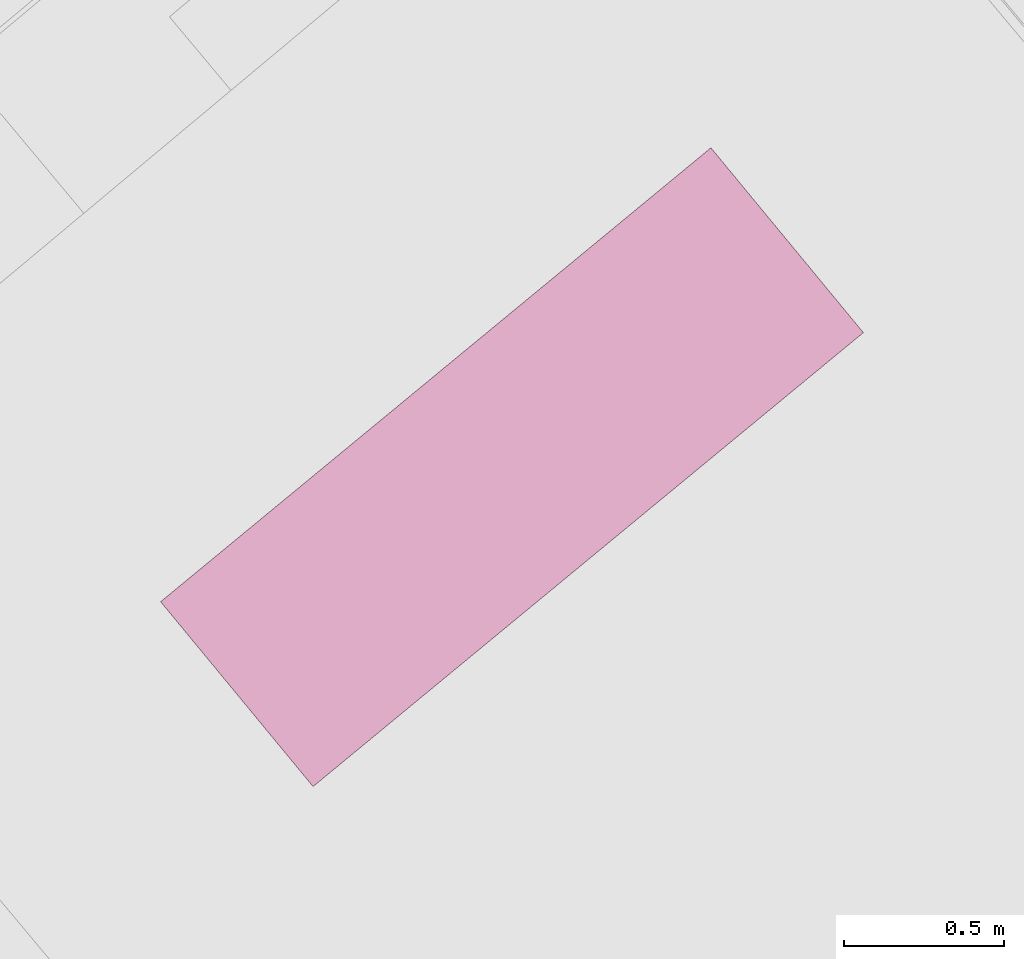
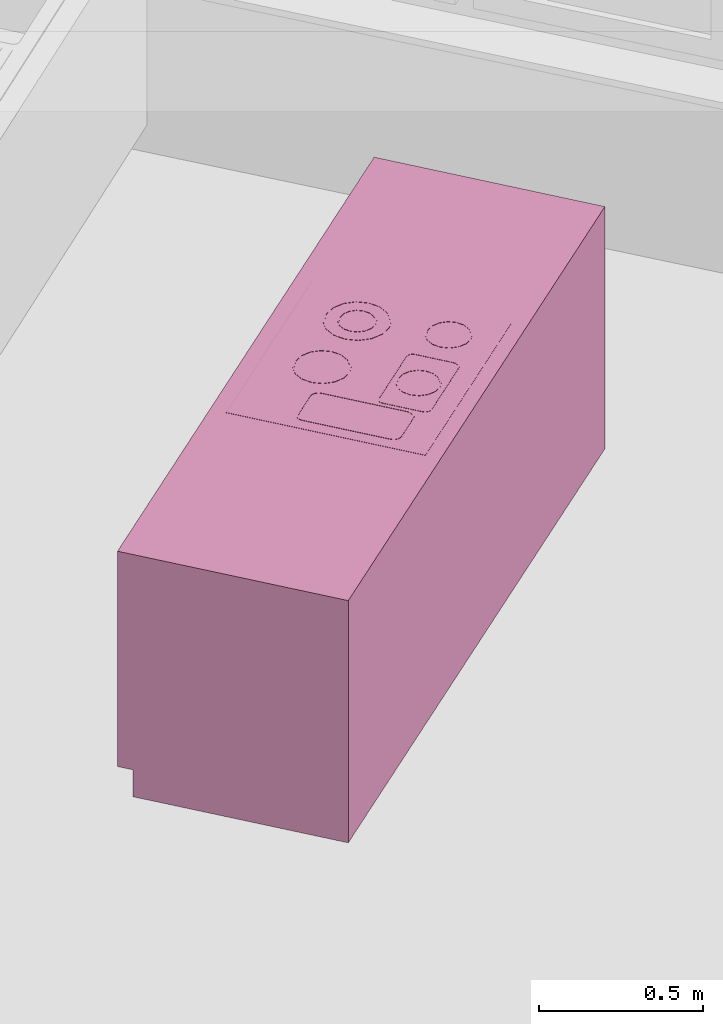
# One storey, part 65 of 67: 1 furniture element.
"""IFC4 building model written with IfcOpenShell, lengths in metres."""

from ifc_helpers import new_model, entity, si_unit, converted_unit, derived_unit, direction, frame, origin_with_axes, place, context, subcontext, project, spatial, polygons, source, transform, mapped, type_object, element, save


model = new_model("IFC4")

# Units and contexts
model_context = context("Model", 3, precision=1e-05, world=origin_with_axes(), true_north=direction((0.0, 1.0)))
body_context = subcontext(model_context, "Body", "Model", "MODEL_VIEW")
ifc_project = project(units=[si_unit("LENGTHUNIT", "METRE"), si_unit("AREAUNIT", "SQUARE_METRE"), si_unit("VOLUMEUNIT", "CUBIC_METRE"), converted_unit("PLANEANGLEUNIT", "DEGREE", entity("IfcPlaneAngleMeasure", 0.0174532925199), si_unit("PLANEANGLEUNIT", "RADIAN"), dimensions=[0, 0, 0, 0, 0, 0, 0]), converted_unit("TIMEUNIT", "Year", entity("IfcTimeMeasure", 31556926.0), si_unit("TIMEUNIT", "SECOND"), dimensions=[0, 0, 1, 0, 0, 0, 0]), si_unit("MASSUNIT", "GRAM", prefix="KILO"), si_unit("THERMODYNAMICTEMPERATUREUNIT", "DEGREE_CELSIUS"), si_unit("LUMINOUSINTENSITYUNIT", "LUMEN"), si_unit("ENERGYUNIT", "JOULE", prefix="MEGA"), derived_unit("THERMALCONDUCTANCEUNIT", [(si_unit("POWERUNIT", "WATT"), 1), (si_unit("LENGTHUNIT", "METRE"), -1), (si_unit("THERMODYNAMICTEMPERATUREUNIT", "KELVIN"), -1)]), derived_unit("SPECIFICHEATCAPACITYUNIT", [(si_unit("ENERGYUNIT", "JOULE"), 1), (si_unit("MASSUNIT", "GRAM", prefix="KILO"), -1), (si_unit("THERMODYNAMICTEMPERATUREUNIT", "KELVIN"), -1)]), derived_unit("MASSDENSITYUNIT", [(si_unit("MASSUNIT", "GRAM", prefix="KILO"), 1), (si_unit("VOLUMEUNIT", "CUBIC_METRE"), -1)])], contexts=[model_context])

# Site, building, storey
site_placement = place(None, frame((-0.00153261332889, -0.00661245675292, 0.0), z_axis=(0.0, 0.0, 1.0), x_axis=(1.0, 0.0, 0.0)))
site = spatial("IfcSite", under=ifc_project, at=site_placement, Name="Site", CompositionType="ELEMENT")
building_placement = place(site_placement, origin_with_axes())
building = spatial("IfcBuilding", under=site, at=building_placement, Name="Building", CompositionType="ELEMENT")
storey_placement = place(building_placement, frame((0.0, 0.0, -0.22), z_axis=(0.0, 0.0, 1.0), x_axis=(1.0, 0.0, 0.0)))
storey = spatial("IfcBuildingStorey", under=building, at=storey_placement, Name="EG", CompositionType="ELEMENT", Elevation=-0.22)

# Furniture
furniture_type = type_object("IfcFurnitureType", Name="Konzeptküche 26", AssemblyPlace="NOTDEFINED", PredefinedType="NOTDEFINED")
shared_shape = source(origin_with_axes(), body_context, "Body", "Tessellation", [
    polygons([(0.451386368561, 0.0111886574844, 0.0), (2.6840690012, -0.00300580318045, 0.0), (2.6840690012, -0.00300580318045, 0.1), (0.451386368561, 0.0111886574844, 0.1), (0.455836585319, 0.711174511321, 0.0), (2.68851921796, 0.696980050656, 0.0), (2.68851921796, 0.696980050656, 0.1), (0.455836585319, 0.711174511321, 0.1)], [[[1, 2, 3, 4]], [[1, 5, 6, 2]], [[2, 6, 7, 3]], [[4, 3, 7, 8]], [[5, 1, 4, 8]], [[6, 5, 8, 7]]], closed=True),
    polygons([(0.451386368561, 0.0111886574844, 0.85), (2.6840690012, -0.00300580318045, 0.85), (2.6840690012, -0.00300580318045, 0.9), (0.451386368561, 0.0111886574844, 0.9), (0.456154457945, 0.76117350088, 0.85), (2.68883709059, 0.746979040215, 0.85), (2.68883709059, 0.746979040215, 0.9), (0.456154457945, 0.76117350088, 0.9)], [[[1, 2, 3, 4]], [[1, 5, 6, 2]], [[2, 6, 7, 3]], [[4, 3, 7, 8]], [[5, 1, 4, 8]], [[6, 5, 8, 7]]], closed=True),
    polygons([(0.451386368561, 0.0111886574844, 0.1), (2.6840690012, -0.00300580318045, 0.1), (2.6840690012, -0.00300580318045, 0.85), (0.451386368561, 0.0111886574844, 0.85), (0.456154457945, 0.76117350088, 0.1), (2.68883709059, 0.746979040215, 0.1), (2.68883709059, 0.746979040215, 0.85), (0.456154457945, 0.76117350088, 0.85)], [[[1, 2, 3, 4]], [[1, 5, 6, 2]], [[2, 6, 7, 3]], [[4, 3, 7, 8]], [[5, 1, 4, 8]], [[6, 5, 8, 7]]], closed=True),
    polygons([(2.01007115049, 0.701293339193, 0.9), (2.00593880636, 0.0513064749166, 0.9), (1.25595396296, 0.0560745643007, 0.9), (1.26008630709, 0.706061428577, 0.9), (2.01007115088, 0.70129333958, 0.9008), (2.00593880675, 0.0513064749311, 0.9008), (1.25595396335, 0.0560745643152, 0.9008), (1.26008630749, 0.706061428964, 0.9008), (2.00322248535, 0.694531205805, 0.901999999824), (1.99917667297, 0.0581551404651, 0.901999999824), (1.26280262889, 0.0628366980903, 0.901999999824), (1.26684844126, 0.69921276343, 0.901999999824)], [[[1, 2, 3, 4]], [[2, 1, 5, 6]], [[3, 2, 6, 7]], [[4, 3, 7, 8]], [[1, 4, 8, 5]], [[6, 5, 9, 10]], [[7, 6, 10, 11]], [[8, 7, 11, 12]], [[5, 8, 12, 9]], [[11, 10, 9, 12]]], closed=True),
    polygons([(1.95268579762, 0.208298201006, 0.902), (1.94734355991, 0.236077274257, 0.902), (1.94734355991, 0.236077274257, 0.903), (1.95268579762, 0.208298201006, 0.903), (1.9469907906, 0.180589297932, 0.902), (1.93112555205, 0.157168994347, 0.902), (1.9075054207, 0.141602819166, 0.902), (1.87972634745, 0.136260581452, 0.902), (1.85201744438, 0.141955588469, 0.902), (1.82859714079, 0.157820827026, 0.902), (1.81303096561, 0.181440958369, 0.902), (1.8076887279, 0.20922003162, 0.902), (1.81338373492, 0.236928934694, 0.902), (1.82924897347, 0.260349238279, 0.902), (1.85286910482, 0.275915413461, 0.902), (1.88064817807, 0.281257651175, 0.902), (1.90835708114, 0.275562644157, 0.902), (1.93177738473, 0.259697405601, 0.902), (1.94768589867, 0.208329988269, 0.902), (1.94271209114, 0.234193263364, 0.902), (1.92821944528, 0.256184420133, 0.902), (1.90641433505, 0.270955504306, 0.902), (1.8806163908, 0.276257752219, 0.902), (1.85475311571, 0.271283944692, 0.902), (1.83276195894, 0.256791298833, 0.902), (1.81799087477, 0.234986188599, 0.902), (1.81268862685, 0.209188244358, 0.902), (1.81766243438, 0.183324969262, 0.902), (1.83215508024, 0.161333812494, 0.902), (1.85396019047, 0.146562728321, 0.902), (1.87975813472, 0.141260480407, 0.902), (1.90562140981, 0.146234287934, 0.902), (1.92761256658, 0.160726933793, 0.902), (1.94238365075, 0.182532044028, 0.902), (1.93177738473, 0.259697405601, 0.903), (1.90835708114, 0.275562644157, 0.903), (1.88064817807, 0.281257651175, 0.903), (1.85286910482, 0.275915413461, 0.903), (1.82924897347, 0.260349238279, 0.903), (1.81338373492, 0.236928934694, 0.903), (1.8076887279, 0.20922003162, 0.903), (1.81303096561, 0.181440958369, 0.903), (1.82859714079, 0.157820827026, 0.903), (1.85201744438, 0.141955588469, 0.903), (1.87972634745, 0.136260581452, 0.903), (1.9075054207, 0.141602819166, 0.903), (1.93112555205, 0.157168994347, 0.903), (1.9469907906, 0.180589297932, 0.903), (1.94768589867, 0.208329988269, 0.903), (1.94238365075, 0.182532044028, 0.903), (1.92761256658, 0.160726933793, 0.903), (1.90562140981, 0.146234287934, 0.903), (1.87975813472, 0.141260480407, 0.903), (1.85396019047, 0.146562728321, 0.903), (1.83215508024, 0.161333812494, 0.903), (1.81766243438, 0.183324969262, 0.903), (1.81268862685, 0.209188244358, 0.903), (1.81799087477, 0.234986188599, 0.903), (1.83276195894, 0.256791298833, 0.903), (1.85475311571, 0.271283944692, 0.903), (1.8806163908, 0.276257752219, 0.903), (1.90641433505, 0.270955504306, 0.903), (1.92821944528, 0.256184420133, 0.903), (1.94271209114, 0.234193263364, 0.903)], [[[1, 2, 3, 4]], [[1, 5, 6, 7, 8, 9, 10, 11, 12, 13, 14, 15, 16, 17, 18, 2], [19, 20, 21, 22, 23, 24, 25, 26, 27, 28, 29, 30, 31, 32, 33, 34]], [[2, 18, 35, 3]], [[4, 3, 35, 36, 37, 38, 39, 40, 41, 42, 43, 44, 45, 46, 47, 48], [49, 50, 51, 52, 53, 54, 55, 56, 57, 58, 59, 60, 61, 62, 63, 64]], [[5, 1, 4, 48]], [[6, 5, 48, 47]], [[7, 6, 47, 46]], [[8, 7, 46, 45]], [[9, 8, 45, 44]], [[10, 9, 44, 43]], [[11, 10, 43, 42]], [[12, 11, 42, 41]], [[13, 12, 41, 40]], [[14, 13, 40, 39]], [[15, 14, 39, 38]], [[16, 15, 38, 37]], [[17, 16, 37, 36]], [[18, 17, 36, 35]], [[20, 19, 49, 64]], [[21, 20, 64, 63]], [[22, 21, 63, 62]], [[23, 22, 62, 61]], [[24, 23, 61, 60]], [[25, 24, 60, 59]], [[26, 25, 59, 58]], [[27, 26, 58, 57]], [[28, 27, 57, 56]], [[29, 28, 56, 55]], [[30, 29, 55, 54]], [[31, 30, 54, 53]], [[32, 31, 53, 52]], [[33, 32, 52, 51]], [[34, 33, 51, 50]], [[19, 34, 50, 49]]], closed=True),
    polygons([(1.9127590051, 0.495207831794, 0.902), (1.90833784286, 0.518197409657, 0.902), (1.90833784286, 0.518197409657, 0.903), (1.9127590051, 0.495207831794, 0.903), (1.90804589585, 0.472276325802, 0.902), (1.89491604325, 0.452894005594, 0.902), (1.87536834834, 0.44001165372, 0.902), (1.85237877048, 0.435590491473, 0.902), (1.82944726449, 0.440303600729, 0.902), (1.81006494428, 0.453433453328, 0.902), (1.7971825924, 0.472981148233, 0.902), (1.79276143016, 0.495970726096, 0.902), (1.79747453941, 0.518902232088, 0.902), (1.81060439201, 0.538284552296, 0.902), (1.83015208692, 0.551166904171, 0.902), (1.85314166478, 0.555588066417, 0.902), (1.87607317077, 0.550874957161, 0.902), (1.89545549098, 0.537745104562, 0.902), (1.90775910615, 0.495239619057, 0.902), (1.90370637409, 0.516313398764, 0.902), (1.89189755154, 0.534232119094, 0.902), (1.87413042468, 0.546267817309, 0.902), (1.85310987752, 0.550588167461, 0.902), (1.83203609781, 0.546535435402, 0.902), (1.81411737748, 0.53472661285, 0.902), (1.80208167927, 0.516959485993, 0.902), (1.79776132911, 0.495938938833, 0.902), (1.80181406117, 0.474865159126, 0.902), (1.81362288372, 0.456946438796, 0.902), (1.83139001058, 0.444910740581, 0.902), (1.85241055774, 0.440590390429, 0.902), (1.87348433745, 0.444643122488, 0.902), (1.89140305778, 0.45645194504, 0.902), (1.90343875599, 0.474219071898, 0.902), (1.89545549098, 0.537745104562, 0.903), (1.87607317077, 0.550874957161, 0.903), (1.85314166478, 0.555588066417, 0.903), (1.83015208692, 0.551166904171, 0.903), (1.81060439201, 0.538284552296, 0.903), (1.79747453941, 0.518902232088, 0.903), (1.79276143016, 0.495970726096, 0.903), (1.7971825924, 0.472981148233, 0.903), (1.81006494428, 0.453433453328, 0.903), (1.82944726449, 0.440303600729, 0.903), (1.85237877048, 0.435590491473, 0.903), (1.87536834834, 0.44001165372, 0.903), (1.89491604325, 0.452894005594, 0.903), (1.90804589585, 0.472276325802, 0.903), (1.90775910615, 0.495239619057, 0.903), (1.90343875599, 0.474219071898, 0.903), (1.89140305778, 0.45645194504, 0.903), (1.87348433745, 0.444643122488, 0.903), (1.85241055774, 0.440590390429, 0.903), (1.83139001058, 0.444910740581, 0.903), (1.81362288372, 0.456946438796, 0.903), (1.80181406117, 0.474865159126, 0.903), (1.79776132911, 0.495938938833, 0.903), (1.80208167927, 0.516959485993, 0.903), (1.81411737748, 0.53472661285, 0.903), (1.83203609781, 0.546535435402, 0.903), (1.85310987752, 0.550588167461, 0.903), (1.87413042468, 0.546267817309, 0.903), (1.89189755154, 0.534232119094, 0.903), (1.90370637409, 0.516313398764, 0.903)], [[[1, 2, 3, 4]], [[1, 5, 6, 7, 8, 9, 10, 11, 12, 13, 14, 15, 16, 17, 18, 2], [19, 20, 21, 22, 23, 24, 25, 26, 27, 28, 29, 30, 31, 32, 33, 34]], [[2, 18, 35, 3]], [[4, 3, 35, 36, 37, 38, 39, 40, 41, 42, 43, 44, 45, 46, 47, 48], [49, 50, 51, 52, 53, 54, 55, 56, 57, 58, 59, 60, 61, 62, 63, 64]], [[5, 1, 4, 48]], [[6, 5, 48, 47]], [[7, 6, 47, 46]], [[8, 7, 46, 45]], [[9, 8, 45, 44]], [[10, 9, 44, 43]], [[11, 10, 43, 42]], [[12, 11, 42, 41]], [[13, 12, 41, 40]], [[14, 13, 40, 39]], [[15, 14, 39, 38]], [[16, 15, 38, 37]], [[17, 16, 37, 36]], [[18, 17, 36, 35]], [[20, 19, 49, 64]], [[21, 20, 64, 63]], [[22, 21, 63, 62]], [[23, 22, 62, 61]], [[24, 23, 61, 60]], [[25, 24, 60, 59]], [[26, 25, 59, 58]], [[27, 26, 58, 57]], [[28, 27, 57, 56]], [[29, 28, 56, 55]], [[30, 29, 55, 54]], [[31, 30, 54, 53]], [[32, 31, 53, 52]], [[33, 32, 52, 51]], [[34, 33, 51, 50]], [[19, 34, 50, 49]]], closed=True),
    polygons([(1.95775809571, 0.494921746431, 0.902), (1.95002106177, 0.535153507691, 0.902), (1.95002106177, 0.535153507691, 0.903), (1.95775809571, 0.494921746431, 0.903), (1.94951015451, 0.454791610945, 0.902), (1.92653291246, 0.420872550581, 0.902), (1.89232444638, 0.3983284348, 0.902), (1.85209268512, 0.39059140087, 0.902), (1.81196254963, 0.398839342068, 0.902), (1.77804348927, 0.421816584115, 0.902), (1.75549937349, 0.456025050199, 0.902), (1.74776233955, 0.496256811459, 0.902), (1.75601028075, 0.536386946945, 0.902), (1.7789875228, 0.57030600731, 0.902), (1.81319598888, 0.59285012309, 0.902), (1.85342775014, 0.60058715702, 0.902), (1.89355788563, 0.592339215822, 0.902), (1.92747694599, 0.569361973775, 0.902), (1.95275819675, 0.494953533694, 0.902), (1.94538959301, 0.533269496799, 0.902), (1.92391900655, 0.565848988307, 0.902), (1.89161513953, 0.587732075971, 0.902), (1.85339596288, 0.595587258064, 0.902), (1.81507999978, 0.588218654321, 0.902), (1.78250050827, 0.566748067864, 0.902), (1.7606174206, 0.53444420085, 0.902), (1.75276223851, 0.496225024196, 0.902), (1.76013084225, 0.457909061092, 0.902), (1.78160142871, 0.425329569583, 0.902), (1.81390529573, 0.403446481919, 0.902), (1.85212447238, 0.395591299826, 0.902), (1.89044043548, 0.402959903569, 0.902), (1.92301992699, 0.424430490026, 0.902), (1.94490301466, 0.456734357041, 0.902), (1.92747694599, 0.569361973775, 0.903), (1.89355788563, 0.592339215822, 0.903), (1.85342775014, 0.60058715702, 0.903), (1.81319598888, 0.59285012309, 0.903), (1.7789875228, 0.57030600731, 0.903), (1.75601028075, 0.536386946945, 0.903), (1.74776233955, 0.496256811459, 0.903), (1.75549937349, 0.456025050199, 0.903), (1.77804348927, 0.421816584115, 0.903), (1.81196254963, 0.398839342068, 0.903), (1.85209268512, 0.39059140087, 0.903), (1.89232444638, 0.3983284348, 0.903), (1.92653291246, 0.420872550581, 0.903), (1.94951015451, 0.454791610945, 0.903), (1.95275819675, 0.494953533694, 0.903), (1.94490301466, 0.456734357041, 0.903), (1.92301992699, 0.424430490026, 0.903), (1.89044043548, 0.402959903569, 0.903), (1.85212447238, 0.395591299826, 0.903), (1.81390529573, 0.403446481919, 0.903), (1.78160142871, 0.425329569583, 0.903), (1.76013084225, 0.457909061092, 0.903), (1.75276223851, 0.496225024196, 0.903), (1.7606174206, 0.53444420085, 0.903), (1.78250050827, 0.566748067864, 0.903), (1.81507999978, 0.588218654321, 0.903), (1.85339596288, 0.595587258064, 0.903), (1.89161513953, 0.587732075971, 0.903), (1.92391900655, 0.565848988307, 0.903), (1.94538959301, 0.533269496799, 0.903)], [[[1, 2, 3, 4]], [[1, 5, 6, 7, 8, 9, 10, 11, 12, 13, 14, 15, 16, 17, 18, 2], [19, 20, 21, 22, 23, 24, 25, 26, 27, 28, 29, 30, 31, 32, 33, 34]], [[2, 18, 35, 3]], [[4, 3, 35, 36, 37, 38, 39, 40, 41, 42, 43, 44, 45, 46, 47, 48], [49, 50, 51, 52, 53, 54, 55, 56, 57, 58, 59, 60, 61, 62, 63, 64]], [[5, 1, 4, 48]], [[6, 5, 48, 47]], [[7, 6, 47, 46]], [[8, 7, 46, 45]], [[9, 8, 45, 44]], [[10, 9, 44, 43]], [[11, 10, 43, 42]], [[12, 11, 42, 41]], [[13, 12, 41, 40]], [[14, 13, 40, 39]], [[15, 14, 39, 38]], [[16, 15, 38, 37]], [[17, 16, 37, 36]], [[18, 17, 36, 35]], [[20, 19, 49, 64]], [[21, 20, 64, 63]], [[22, 21, 63, 62]], [[23, 22, 62, 61]], [[24, 23, 61, 60]], [[25, 24, 60, 59]], [[26, 25, 59, 58]], [[27, 26, 58, 57]], [[28, 27, 57, 56]], [[29, 28, 56, 55]], [[30, 29, 55, 54]], [[31, 30, 54, 53]], [[32, 31, 53, 52]], [[33, 32, 52, 51]], [[34, 33, 51, 50]], [[19, 34, 50, 49]]], closed=True),
    polygons([(1.67867067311, 0.206790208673, 0.902), (1.67351265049, 0.233611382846, 0.902), (1.67351265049, 0.233611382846, 0.903), (1.67867067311, 0.206790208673, 0.903), (1.67317204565, 0.180036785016, 0.902), (1.65785388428, 0.157424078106, 0.902), (1.63504824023, 0.142394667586, 0.902), (1.60822706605, 0.137236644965, 0.902), (1.5814736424, 0.142735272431, 0.902), (1.55886093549, 0.158053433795, 0.902), (1.54383152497, 0.180859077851, 0.902), (1.53867350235, 0.207680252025, 0.902), (1.54417212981, 0.234433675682, 0.902), (1.55949029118, 0.257046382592, 0.902), (1.58229593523, 0.272075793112, 0.902), (1.60911710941, 0.277233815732, 0.902), (1.63587053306, 0.271735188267, 0.902), (1.65848323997, 0.256417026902, 0.902), (1.67367077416, 0.206821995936, 0.902), (1.66888118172, 0.231727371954, 0.902), (1.65492530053, 0.252904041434, 0.902), (1.63392778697, 0.267128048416, 0.902), (1.60908532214, 0.272233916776, 0.902), (1.58417994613, 0.267444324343, 0.902), (1.56300327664, 0.253488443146, 0.902), (1.54877926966, 0.232490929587, 0.902), (1.5436734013, 0.207648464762, 0.902), (1.54846299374, 0.182743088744, 0.902), (1.56241887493, 0.161566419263, 0.902), (1.58341638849, 0.147342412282, 0.902), (1.60825885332, 0.142236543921, 0.902), (1.63316422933, 0.147026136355, 0.902), (1.65434089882, 0.160982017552, 0.902), (1.6685649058, 0.181979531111, 0.902), (1.65848323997, 0.256417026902, 0.903), (1.63587053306, 0.271735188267, 0.903), (1.60911710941, 0.277233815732, 0.903), (1.58229593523, 0.272075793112, 0.903), (1.55949029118, 0.257046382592, 0.903), (1.54417212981, 0.234433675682, 0.903), (1.53867350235, 0.207680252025, 0.903), (1.54383152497, 0.180859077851, 0.903), (1.55886093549, 0.158053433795, 0.903), (1.5814736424, 0.142735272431, 0.903), (1.60822706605, 0.137236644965, 0.903), (1.63504824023, 0.142394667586, 0.903), (1.65785388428, 0.157424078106, 0.903), (1.67317204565, 0.180036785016, 0.903), (1.67367077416, 0.206821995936, 0.903), (1.6685649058, 0.181979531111, 0.903), (1.65434089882, 0.160982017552, 0.903), (1.63316422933, 0.147026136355, 0.903), (1.60825885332, 0.142236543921, 0.903), (1.58341638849, 0.147342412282, 0.903), (1.56241887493, 0.161566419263, 0.903), (1.54846299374, 0.182743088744, 0.903), (1.5436734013, 0.207648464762, 0.903), (1.54877926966, 0.232490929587, 0.903), (1.56300327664, 0.253488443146, 0.903), (1.58417994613, 0.267444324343, 0.903), (1.60908532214, 0.272233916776, 0.903), (1.63392778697, 0.267128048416, 0.903), (1.65492530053, 0.252904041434, 0.903), (1.66888118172, 0.231727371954, 0.903)], [[[1, 2, 3, 4]], [[1, 5, 6, 7, 8, 9, 10, 11, 12, 13, 14, 15, 16, 17, 18, 2], [19, 20, 21, 22, 23, 24, 25, 26, 27, 28, 29, 30, 31, 32, 33, 34]], [[2, 18, 35, 3]], [[4, 3, 35, 36, 37, 38, 39, 40, 41, 42, 43, 44, 45, 46, 47, 48], [49, 50, 51, 52, 53, 54, 55, 56, 57, 58, 59, 60, 61, 62, 63, 64]], [[5, 1, 4, 48]], [[6, 5, 48, 47]], [[7, 6, 47, 46]], [[8, 7, 46, 45]], [[9, 8, 45, 44]], [[10, 9, 44, 43]], [[11, 10, 43, 42]], [[12, 11, 42, 41]], [[13, 12, 41, 40]], [[14, 13, 40, 39]], [[15, 14, 39, 38]], [[16, 15, 38, 37]], [[17, 16, 37, 36]], [[18, 17, 36, 35]], [[20, 19, 49, 64]], [[21, 20, 64, 63]], [[22, 21, 63, 62]], [[23, 22, 62, 61]], [[24, 23, 61, 60]], [[25, 24, 60, 59]], [[26, 25, 59, 58]], [[27, 26, 58, 57]], [[28, 27, 57, 56]], [[29, 28, 56, 55]], [[30, 29, 55, 54]], [[31, 30, 54, 53]], [[32, 31, 53, 52]], [[33, 32, 52, 51]], [[34, 33, 51, 50]], [[19, 34, 50, 49]]], closed=True),
    polygons([(1.67698381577, 0.511657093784, 0.902), (1.6703520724, 0.546141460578, 0.902), (1.6703520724, 0.546141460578, 0.903), (1.67698381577, 0.511657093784, 0.903), (1.66991415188, 0.477259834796, 0.902), (1.65021937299, 0.448186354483, 0.902), (1.62089783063, 0.428862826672, 0.902), (1.58641346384, 0.422231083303, 0.902), (1.55201620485, 0.429300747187, 0.902), (1.52294272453, 0.448995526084, 0.902), (1.50361919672, 0.478317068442, 0.902), (1.49698745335, 0.512801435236, 0.902), (1.50405711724, 0.547198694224, 0.902), (1.52375189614, 0.576272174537, 0.902), (1.55307343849, 0.595595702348, 0.902), (1.58755780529, 0.602227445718, 0.902), (1.62195506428, 0.595157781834, 0.902), (1.65102854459, 0.575463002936, 0.902), (1.67198391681, 0.511688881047, 0.902), (1.66572060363, 0.544257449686, 0.902), (1.64747060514, 0.571950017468, 0.902), (1.62001231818, 0.590550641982, 0.902), (1.58752601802, 0.597227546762, 0.902), (1.55495744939, 0.590964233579, 0.902), (1.5272648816, 0.572714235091, 0.902), (1.50866425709, 0.545255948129, 0.902), (1.50198735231, 0.512769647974, 0.902), (1.50825066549, 0.480201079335, 0.902), (1.52650066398, 0.452508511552, 0.902), (1.55395895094, 0.433907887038, 0.902), (1.5864452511, 0.427230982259, 0.902), (1.61901381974, 0.433494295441, 0.902), (1.64670638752, 0.451744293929, 0.902), (1.66530701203, 0.479202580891, 0.902), (1.65102854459, 0.575463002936, 0.903), (1.62195506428, 0.595157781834, 0.903), (1.58755780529, 0.602227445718, 0.903), (1.55307343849, 0.595595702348, 0.903), (1.52375189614, 0.576272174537, 0.903), (1.50405711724, 0.547198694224, 0.903), (1.49698745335, 0.512801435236, 0.903), (1.50361919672, 0.478317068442, 0.903), (1.52294272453, 0.448995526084, 0.903), (1.55201620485, 0.429300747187, 0.903), (1.58641346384, 0.422231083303, 0.903), (1.62089783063, 0.428862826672, 0.903), (1.65021937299, 0.448186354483, 0.903), (1.66991415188, 0.477259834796, 0.903), (1.67198391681, 0.511688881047, 0.903), (1.66530701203, 0.479202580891, 0.903), (1.64670638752, 0.451744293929, 0.903), (1.61901381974, 0.433494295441, 0.903), (1.5864452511, 0.427230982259, 0.903), (1.55395895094, 0.433907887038, 0.903), (1.52650066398, 0.452508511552, 0.903), (1.50825066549, 0.480201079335, 0.903), (1.50198735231, 0.512769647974, 0.903), (1.50866425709, 0.545255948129, 0.903), (1.5272648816, 0.572714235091, 0.903), (1.55495744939, 0.590964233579, 0.903), (1.58752601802, 0.597227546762, 0.903), (1.62001231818, 0.590550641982, 0.903), (1.64747060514, 0.571950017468, 0.903), (1.66572060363, 0.544257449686, 0.903)], [[[1, 2, 3, 4]], [[1, 5, 6, 7, 8, 9, 10, 11, 12, 13, 14, 15, 16, 17, 18, 2], [19, 20, 21, 22, 23, 24, 25, 26, 27, 28, 29, 30, 31, 32, 33, 34]], [[2, 18, 35, 3]], [[4, 3, 35, 36, 37, 38, 39, 40, 41, 42, 43, 44, 45, 46, 47, 48], [49, 50, 51, 52, 53, 54, 55, 56, 57, 58, 59, 60, 61, 62, 63, 64]], [[5, 1, 4, 48]], [[6, 5, 48, 47]], [[7, 6, 47, 46]], [[8, 7, 46, 45]], [[9, 8, 45, 44]], [[10, 9, 44, 43]], [[11, 10, 43, 42]], [[12, 11, 42, 41]], [[13, 12, 41, 40]], [[14, 13, 40, 39]], [[15, 14, 39, 38]], [[16, 15, 38, 37]], [[17, 16, 37, 36]], [[18, 17, 36, 35]], [[20, 19, 49, 64]], [[21, 20, 64, 63]], [[22, 21, 63, 62]], [[23, 22, 62, 61]], [[24, 23, 61, 60]], [[25, 24, 60, 59]], [[26, 25, 59, 58]], [[27, 26, 58, 57]], [[28, 27, 57, 56]], [[29, 28, 56, 55]], [[30, 29, 55, 54]], [[31, 30, 54, 53]], [[32, 31, 53, 52]], [[33, 32, 52, 51]], [[34, 33, 51, 50]], [[19, 34, 50, 49]]], closed=True),
    polygons([(1.72815115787, 0.294201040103, 0.902), (1.49030841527, 0.295713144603, 0.902), (1.49030841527, 0.295713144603, 0.903), (1.72815115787, 0.294201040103, 0.903), (1.73655937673, 0.292472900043, 0.902), (1.74366622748, 0.287658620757, 0.902), (1.7483897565, 0.280491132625, 0.902), (1.75001084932, 0.272061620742, 0.902), (1.74917517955, 0.140617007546, 0.902), (1.74744703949, 0.132208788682, 0.902), (1.7426327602, 0.125101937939, 0.902), (1.73546527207, 0.120378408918, 0.902), (1.72703576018, 0.118757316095, 0.902), (1.48919301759, 0.120269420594, 0.902), (1.48078479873, 0.121997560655, 0.902), (1.47367794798, 0.126811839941, 0.902), (1.46895441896, 0.133979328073, 0.902), (1.46733332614, 0.142408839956, 0.902), (1.46816899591, 0.273853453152, 0.902), (1.46989713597, 0.282261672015, 0.902), (1.47471141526, 0.289368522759, 0.902), (1.48187890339, 0.294092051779, 0.902), (1.72406760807, 0.123776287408, 0.902), (1.73173080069, 0.125250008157, 0.902), (1.738246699, 0.129544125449, 0.902), (1.74262331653, 0.136004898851, 0.902), (1.74419435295, 0.143648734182, 0.902), (1.74499187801, 0.269093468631, 0.902), (1.74351815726, 0.276756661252, 0.902), (1.73922403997, 0.283272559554, 0.902), (1.73276326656, 0.287649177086, 0.902), (1.72511943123, 0.289220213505, 0.902), (1.49327656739, 0.290694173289, 0.902), (1.48561337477, 0.28922045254, 0.902), (1.47909747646, 0.284926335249, 0.902), (1.47472085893, 0.278465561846, 0.902), (1.47314982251, 0.270821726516, 0.902), (1.47235229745, 0.145376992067, 0.902), (1.4738260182, 0.137713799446, 0.902), (1.47812013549, 0.131197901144, 0.902), (1.4845809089, 0.126821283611, 0.902), (1.49222474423, 0.125250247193, 0.902), (1.48187890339, 0.294092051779, 0.903), (1.47471141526, 0.289368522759, 0.903), (1.46989713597, 0.282261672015, 0.903), (1.46816899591, 0.273853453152, 0.903), (1.46733332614, 0.142408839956, 0.903), (1.46895441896, 0.133979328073, 0.903), (1.47367794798, 0.126811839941, 0.903), (1.48078479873, 0.121997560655, 0.903), (1.48919301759, 0.120269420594, 0.903), (1.72703576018, 0.118757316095, 0.903), (1.73546527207, 0.120378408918, 0.903), (1.7426327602, 0.125101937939, 0.903), (1.74744703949, 0.132208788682, 0.903), (1.74917517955, 0.140617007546, 0.903), (1.75001084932, 0.272061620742, 0.903), (1.7483897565, 0.280491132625, 0.903), (1.74366622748, 0.287658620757, 0.903), (1.73655937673, 0.292472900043, 0.903), (1.72406760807, 0.123776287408, 0.903), (1.49222474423, 0.125250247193, 0.903), (1.4845809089, 0.126821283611, 0.903), (1.47812013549, 0.131197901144, 0.903), (1.4738260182, 0.137713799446, 0.903), (1.47235229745, 0.145376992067, 0.903), (1.47314982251, 0.270821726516, 0.903), (1.47472085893, 0.278465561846, 0.903), (1.47909747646, 0.284926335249, 0.903), (1.48561337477, 0.28922045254, 0.903), (1.49327656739, 0.290694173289, 0.903), (1.72511943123, 0.289220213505, 0.903), (1.73276326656, 0.287649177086, 0.903), (1.73922403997, 0.283272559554, 0.903), (1.74351815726, 0.276756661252, 0.903), (1.74499187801, 0.269093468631, 0.903), (1.74419435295, 0.143648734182, 0.903), (1.74262331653, 0.136004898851, 0.903), (1.738246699, 0.129544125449, 0.903), (1.73173080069, 0.125250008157, 0.903)], [[[1, 2, 3, 4]], [[1, 5, 6, 7, 8, 9, 10, 11, 12, 13, 14, 15, 16, 17, 18, 19, 20, 21, 22, 2], [23, 24, 25, 26, 27, 28, 29, 30, 31, 32, 33, 34, 35, 36, 37, 38, 39, 40, 41, 42]], [[2, 22, 43, 3]], [[4, 3, 43, 44, 45, 46, 47, 48, 49, 50, 51, 52, 53, 54, 55, 56, 57, 58, 59, 60], [61, 62, 63, 64, 65, 66, 67, 68, 69, 70, 71, 72, 73, 74, 75, 76, 77, 78, 79, 80]], [[5, 1, 4, 60]], [[6, 5, 60, 59]], [[7, 6, 59, 58]], [[8, 7, 58, 57]], [[9, 8, 57, 56]], [[10, 9, 56, 55]], [[11, 10, 55, 54]], [[12, 11, 54, 53]], [[13, 12, 53, 52]], [[14, 13, 52, 51]], [[15, 14, 51, 50]], [[16, 15, 50, 49]], [[17, 16, 49, 48]], [[18, 17, 48, 47]], [[19, 18, 47, 46]], [[20, 19, 46, 45]], [[21, 20, 45, 44]], [[22, 21, 44, 43]], [[24, 23, 61, 80]], [[25, 24, 80, 79]], [[26, 25, 79, 78]], [[27, 26, 78, 77]], [[28, 27, 77, 76]], [[29, 28, 76, 75]], [[30, 29, 75, 74]], [[31, 30, 74, 73]], [[32, 31, 73, 72]], [[33, 32, 72, 71]], [[34, 33, 71, 70]], [[35, 34, 70, 69]], [[36, 35, 69, 68]], [[37, 36, 68, 67]], [[38, 37, 67, 66]], [[39, 38, 66, 65]], [[40, 39, 65, 64]], [[41, 40, 64, 63]], [[42, 41, 63, 62]], [[23, 42, 62, 61]]], closed=True),
    polygons([(1.45676176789, 0.182500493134, 0.902), (1.45859271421, 0.470494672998, 0.902), (1.45859271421, 0.470494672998, 0.903), (1.45676176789, 0.182500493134, 0.903), (1.45471942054, 0.172563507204, 0.902), (1.44902981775, 0.16416450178, 0.902), (1.44055914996, 0.158582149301, 0.902), (1.43059699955, 0.156666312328, 0.902), (1.3225991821, 0.157352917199, 0.902), (1.31266219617, 0.159395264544, 0.902), (1.30426319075, 0.165084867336, 0.902), (1.29868083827, 0.173555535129, 0.902), (1.2967650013, 0.183517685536, 0.902), (1.29859594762, 0.4715118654, 0.902), (1.30063829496, 0.48144885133, 0.902), (1.30632789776, 0.489847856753, 0.902), (1.31479856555, 0.495430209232, 0.902), (1.32476071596, 0.497346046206, 0.902), (1.4327585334, 0.496659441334, 0.902), (1.44269551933, 0.49461709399, 0.902), (1.45109452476, 0.488927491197, 0.902), (1.45667687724, 0.480456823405, 0.902), (1.42562888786, 0.161697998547, 0.902), (1.43559103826, 0.16361383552, 0.902), (1.44406170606, 0.169196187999, 0.902), (1.44975130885, 0.177595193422, 0.902), (1.45179365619, 0.187532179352, 0.902), (1.45356102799, 0.465526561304, 0.902), (1.45164519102, 0.475488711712, 0.902), (1.44606283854, 0.483959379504, 0.902), (1.43766383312, 0.489648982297, 0.902), (1.42772684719, 0.491691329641, 0.902), (1.32972882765, 0.492314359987, 0.902), (1.31976667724, 0.490398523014, 0.902), (1.31129600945, 0.484816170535, 0.902), (1.30560640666, 0.476417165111, 0.902), (1.30356405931, 0.466480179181, 0.902), (1.30179668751, 0.188485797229, 0.902), (1.30371252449, 0.178523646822, 0.902), (1.30929487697, 0.17005297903, 0.902), (1.31769388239, 0.164363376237, 0.902), (1.32763086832, 0.162321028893, 0.902), (1.45667687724, 0.480456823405, 0.903), (1.45109452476, 0.488927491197, 0.903), (1.44269551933, 0.49461709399, 0.903), (1.4327585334, 0.496659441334, 0.903), (1.32476071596, 0.497346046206, 0.903), (1.31479856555, 0.495430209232, 0.903), (1.30632789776, 0.489847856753, 0.903), (1.30063829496, 0.48144885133, 0.903), (1.29859594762, 0.4715118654, 0.903), (1.2967650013, 0.183517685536, 0.903), (1.29868083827, 0.173555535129, 0.903), (1.30426319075, 0.165084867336, 0.903), (1.31266219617, 0.159395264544, 0.903), (1.3225991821, 0.157352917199, 0.903), (1.43059699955, 0.156666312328, 0.903), (1.44055914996, 0.158582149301, 0.903), (1.44902981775, 0.16416450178, 0.903), (1.45471942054, 0.172563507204, 0.903), (1.42562888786, 0.161697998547, 0.903), (1.32763086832, 0.162321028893, 0.903), (1.31769388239, 0.164363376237, 0.903), (1.30929487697, 0.17005297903, 0.903), (1.30371252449, 0.178523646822, 0.903), (1.30179668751, 0.188485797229, 0.903), (1.30356405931, 0.466480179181, 0.903), (1.30560640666, 0.476417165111, 0.903), (1.31129600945, 0.484816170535, 0.903), (1.31976667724, 0.490398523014, 0.903), (1.32972882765, 0.492314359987, 0.903), (1.42772684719, 0.491691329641, 0.903), (1.43766383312, 0.489648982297, 0.903), (1.44606283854, 0.483959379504, 0.903), (1.45164519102, 0.475488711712, 0.903), (1.45356102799, 0.465526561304, 0.903), (1.45179365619, 0.187532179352, 0.903), (1.44975130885, 0.177595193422, 0.903), (1.44406170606, 0.169196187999, 0.903), (1.43559103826, 0.16361383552, 0.903)], [[[1, 2, 3, 4]], [[1, 5, 6, 7, 8, 9, 10, 11, 12, 13, 14, 15, 16, 17, 18, 19, 20, 21, 22, 2], [23, 24, 25, 26, 27, 28, 29, 30, 31, 32, 33, 34, 35, 36, 37, 38, 39, 40, 41, 42]], [[2, 22, 43, 3]], [[4, 3, 43, 44, 45, 46, 47, 48, 49, 50, 51, 52, 53, 54, 55, 56, 57, 58, 59, 60], [61, 62, 63, 64, 65, 66, 67, 68, 69, 70, 71, 72, 73, 74, 75, 76, 77, 78, 79, 80]], [[5, 1, 4, 60]], [[6, 5, 60, 59]], [[7, 6, 59, 58]], [[8, 7, 58, 57]], [[9, 8, 57, 56]], [[10, 9, 56, 55]], [[11, 10, 55, 54]], [[12, 11, 54, 53]], [[13, 12, 53, 52]], [[14, 13, 52, 51]], [[15, 14, 51, 50]], [[16, 15, 50, 49]], [[17, 16, 49, 48]], [[18, 17, 48, 47]], [[19, 18, 47, 46]], [[20, 19, 46, 45]], [[21, 20, 45, 44]], [[22, 21, 44, 43]], [[24, 23, 61, 80]], [[25, 24, 80, 79]], [[26, 25, 79, 78]], [[27, 26, 78, 77]], [[28, 27, 77, 76]], [[29, 28, 76, 75]], [[30, 29, 75, 74]], [[31, 30, 74, 73]], [[32, 31, 73, 72]], [[33, 32, 72, 71]], [[34, 33, 71, 70]], [[35, 34, 70, 69]], [[36, 35, 69, 68]], [[37, 36, 68, 67]], [[38, 37, 67, 66]], [[39, 38, 66, 65]], [[40, 39, 65, 64]], [[41, 40, 64, 63]], [[42, 41, 63, 62]], [[23, 42, 62, 61]]], closed=True),
])
furniture_placement = place(storey_placement, frame((7.63208240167, 20.7799227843, 0.22), z_axis=(0.0, 0.0, 1.0), x_axis=(0.767365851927, 0.641209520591, 0.0)))
element("IfcFurniture", 1, at=furniture_placement, inside=storey, type_object=furniture_type, Name="Objekt-0002", PredefinedType="NOTDEFINED", context=body_context, shape_type="MappedRepresentation", body=[
    mapped(shared_shape, transform((0.0, 0.0, 0.0))),
])

save(model, "model.ifc")
